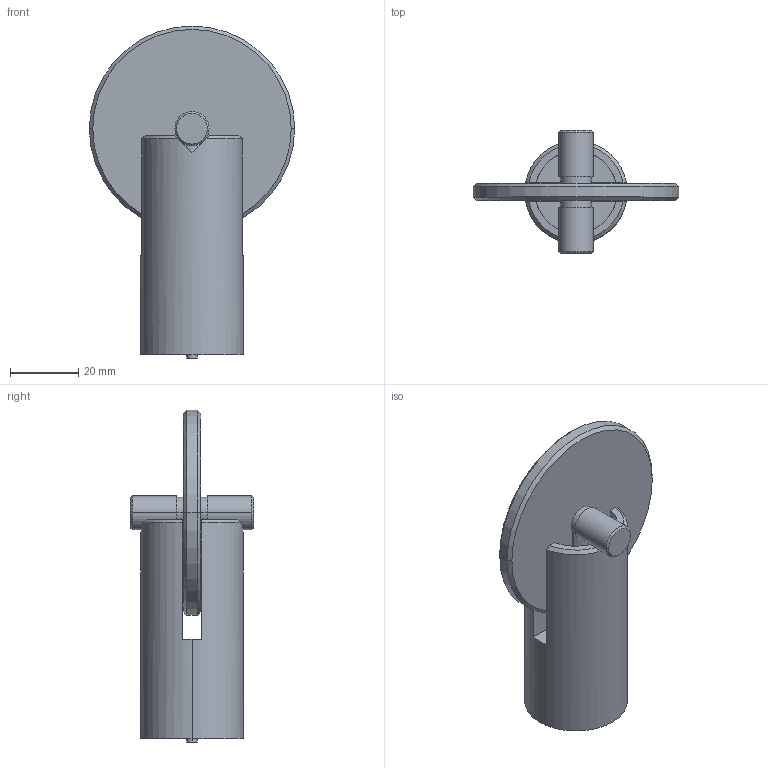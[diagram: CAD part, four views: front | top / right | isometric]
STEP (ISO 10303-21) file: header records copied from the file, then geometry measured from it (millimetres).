
FILE_DESCRIPTION(('Creo Elements/Direct Modeling STEP Export'),'2;1');
FILE_NAME('506用.stp','2018-09-14T19:51:13',(''),(''),'Creo Elements/Direct Modeling STEP processor for AP214 (Solid Model)','Creo Elements/Direct Modeling 18.1C 24-Feb-2013 (C) Parametric Technology GmbH','');
FILE_SCHEMA(('AUTOMOTIVE_DESIGN { 1 0 10303 214 1 1 1 1 }'));
Length unit declared in the file: millimetre
Products named in the file (7): 30; Φ60; ゲージスタンド; 2; 1; Φ1; LSM-506S用
Assembly tree (6 placements, depth 3):
  LSM-506S用
    Φ1
      1
      2
    ゲージスタンド
    Φ60
      30
Bounding box: 60 x 36 x 97 mm (x, y, z)
Volume: 54096 mm3; surface area: 17535.8 mm2
Topology: 4 solids, 4 shells, 82 faces, 194 edges, 126 vertices
Faces by surface type: plane 44, cylinder 24, cone 14
Entity records: 2362 total; most frequent: CARTESIAN_POINT 451, ORIENTED_EDGE 388, DIRECTION 329, EDGE_CURVE 194, VERTEX_POINT 126, AXIS2_PLACEMENT_3D 120, VECTOR 89, LINE 89
